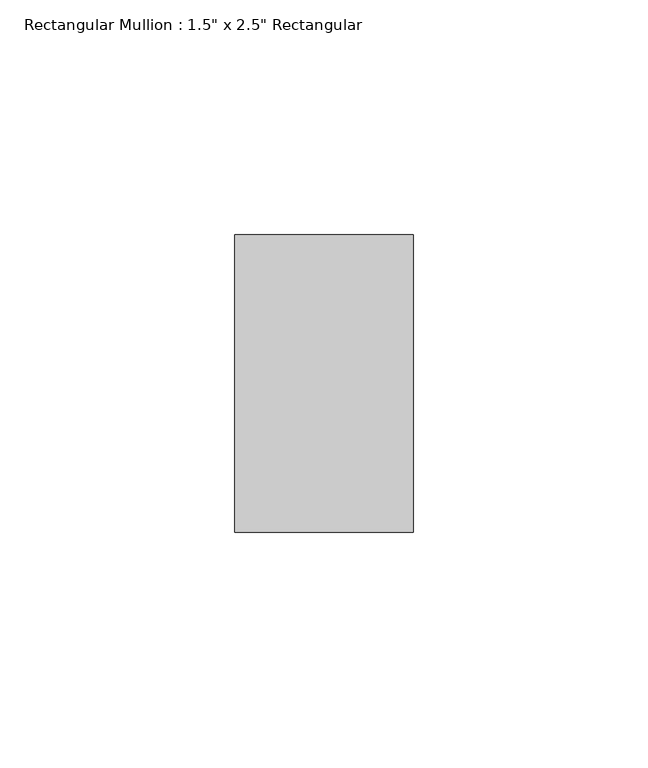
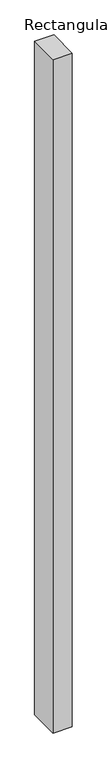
"""IFC4 building model written with IfcOpenShell, lengths in millimetres: member geometry."""

from ifc_helpers import new_model, si_unit, frame, origin, place, context, project, spatial, polyline, outline, extrude, source, transform, mapped, element, save


def member_e1440e88(model_context):
    return source(origin(), model_context, "Body", "SweptSolid", [
        extrude(outline(polyline([(0.0, 31.75), (0.0, -31.75), (-38.1, -31.75), (-38.1, 31.75), (0.0, 31.75)])), frame((0.0, 0.0, -1419.2249997), z_axis=(0.0, 0.0, 1.0), x_axis=(1.0, 0.0, 0.0)), (0.0, 0.0, 1.0), 1419.2249997),
    ])


if __name__ == "__main__":
    model = new_model("IFC4")
    model_context = context("Model", 3, world=origin())
    ifc_project = project(units=[si_unit("LENGTHUNIT", "METRE", prefix="MILLI")], contexts=[model_context])
    site = spatial("IfcSite", under=ifc_project)
    building = spatial("IfcBuilding", under=site)
    placement = place(None, origin())
    member_shape = member_e1440e88(model_context)
    element("IfcMember", 1, ObjectType="Rectangular Mullion : 1.5\" x 2.5\" Rectangular", at=placement, inside=building, context=model_context, shape_type="MappedRepresentation", body=[
        mapped(member_shape, transform((0.0, 0.0, 0.0), x_axis=(1.0, 0.0, 0.0), y_axis=(0.0, 1.0, 0.0), z_axis=(0.0, 0.0, 1.0))),
    ])
    save(model, "model.ifc")
